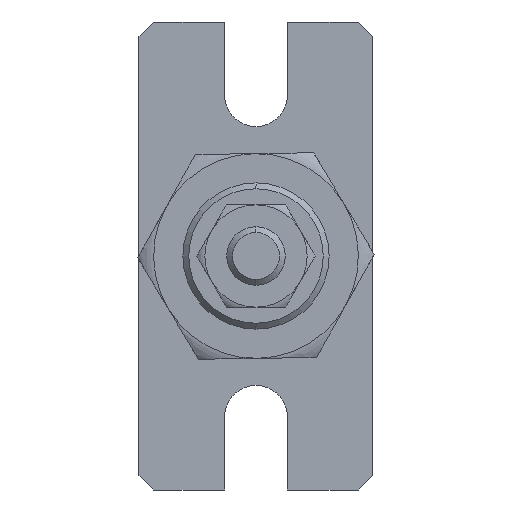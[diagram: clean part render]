
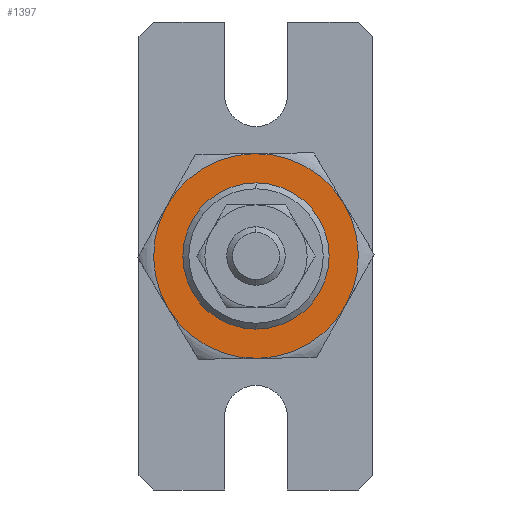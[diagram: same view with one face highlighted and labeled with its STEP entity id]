
A CAD part, left-side view. The second image highlights one B-rep face of the part: STEP entity #1397.
In plain terms, the highlighted planar face has unit normal (-1, 0, 0).
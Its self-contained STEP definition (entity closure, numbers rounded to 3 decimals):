
#20 = ORIENTED_EDGE ( 'NONE', *, *, #1524, .T. ) ;
#21 = CARTESIAN_POINT ( 'NONE',  ( -1.5, 0., 7. ) ) ;
#54 = EDGE_LOOP ( 'NONE', ( #3613, #566, #715, #1969, #1781, #1987 ) ) ;
#55 = DIRECTION ( 'NONE',  ( 0., 0., -1. ) ) ;
#96 = CARTESIAN_POINT ( 'NONE',  ( -1.5, 0., 0. ) ) ;
#123 = DIRECTION ( 'NONE',  ( 0., 0., -1. ) ) ;
#158 = VERTEX_POINT ( 'NONE', #2516 ) ;
#196 = AXIS2_PLACEMENT_3D ( 'NONE', #1582, #2092, #3200 ) ;
#286 = EDGE_CURVE ( 'NONE', #3566, #158, #1418, .T. ) ;
#308 = VERTEX_POINT ( 'NONE', #3588 ) ;
#383 = EDGE_LOOP ( 'NONE', ( #553, #20 ) ) ;
#545 = CARTESIAN_POINT ( 'NONE',  ( -1.5, -6.062, -3.5 ) ) ;
#553 = ORIENTED_EDGE ( 'NONE', *, *, #1214, .T. ) ;
#566 = ORIENTED_EDGE ( 'NONE', *, *, #2170, .F. ) ;
#623 = VERTEX_POINT ( 'NONE', #545 ) ;
#658 = CARTESIAN_POINT ( 'NONE',  ( -1.5, 0., -7. ) ) ;
#690 = AXIS2_PLACEMENT_3D ( 'NONE', #96, #1532, #695 ) ;
#695 = DIRECTION ( 'NONE',  ( 0., 0., -1. ) ) ;
#715 = ORIENTED_EDGE ( 'NONE', *, *, #2889, .F. ) ;
#800 = CIRCLE ( 'NONE', #1092, 7. ) ;
#855 = DIRECTION ( 'NONE',  ( 1., 0., 0. ) ) ;
#957 = CARTESIAN_POINT ( 'NONE',  ( -1.5, 0., 0. ) ) ;
#963 = AXIS2_PLACEMENT_3D ( 'NONE', #2005, #2461, #2514 ) ;
#1092 = AXIS2_PLACEMENT_3D ( 'NONE', #2998, #1331, #123 ) ;
#1197 = DIRECTION ( 'NONE',  ( -1., 0., 0. ) ) ;
#1214 = EDGE_CURVE ( 'NONE', #2096, #3019, #1948, .T. ) ;
#1222 = DIRECTION ( 'NONE',  ( 0., 0., -1. ) ) ;
#1287 = EDGE_CURVE ( 'NONE', #1720, #3045, #2267, .T. ) ;
#1331 = DIRECTION ( 'NONE',  ( 1., 0., 0. ) ) ;
#1397 = ADVANCED_FACE ( 'NONE', ( #1737, #2380 ), #1985, .F. ) ;
#1418 = CIRCLE ( 'NONE', #2952, 7. ) ;
#1524 = EDGE_CURVE ( 'NONE', #3019, #2096, #2214, .T. ) ;
#1532 = DIRECTION ( 'NONE',  ( 1., 0., 0. ) ) ;
#1582 = CARTESIAN_POINT ( 'NONE',  ( -1.5, 0., 0. ) ) ;
#1720 = VERTEX_POINT ( 'NONE', #658 ) ;
#1731 = CARTESIAN_POINT ( 'NONE',  ( -1.5, 0., -4.5 ) ) ;
#1737 = FACE_BOUND ( 'NONE', #383, .T. ) ;
#1781 = ORIENTED_EDGE ( 'NONE', *, *, #3162, .T. ) ;
#1818 = CARTESIAN_POINT ( 'NONE',  ( -1.5, 0., 0. ) ) ;
#1948 = CIRCLE ( 'NONE', #690, 4.5 ) ;
#1969 = ORIENTED_EDGE ( 'NONE', *, *, #286, .F. ) ;
#1985 = PLANE ( 'NONE',  #2346 ) ;
#1987 = ORIENTED_EDGE ( 'NONE', *, *, #3303, .F. ) ;
#2005 = CARTESIAN_POINT ( 'NONE',  ( -1.5, 0., 0. ) ) ;
#2042 = DIRECTION ( 'NONE',  ( 0., 0., 1. ) ) ;
#2073 = CARTESIAN_POINT ( 'NONE',  ( -1.5, 6.062, -3.5 ) ) ;
#2092 = DIRECTION ( 'NONE',  ( 1., 0., 0. ) ) ;
#2096 = VERTEX_POINT ( 'NONE', #1731 ) ;
#2138 = CIRCLE ( 'NONE', #3216, 7. ) ;
#2170 = EDGE_CURVE ( 'NONE', #623, #1720, #2138, .T. ) ;
#2214 = CIRCLE ( 'NONE', #963, 4.5 ) ;
#2267 = CIRCLE ( 'NONE', #196, 7. ) ;
#2320 = CARTESIAN_POINT ( 'NONE',  ( -1.5, 0., 0. ) ) ;
#2346 = AXIS2_PLACEMENT_3D ( 'NONE', #2320, #3283, #55 ) ;
#2380 = FACE_OUTER_BOUND ( 'NONE', #54, .T. ) ;
#2461 = DIRECTION ( 'NONE',  ( 1., 0., 0. ) ) ;
#2507 = AXIS2_PLACEMENT_3D ( 'NONE', #2570, #855, #3009 ) ;
#2514 = DIRECTION ( 'NONE',  ( 0., 0., -1. ) ) ;
#2516 = CARTESIAN_POINT ( 'NONE',  ( -1.5, -6.062, 3.5 ) ) ;
#2570 = CARTESIAN_POINT ( 'NONE',  ( -1.5, 0., 0. ) ) ;
#2621 = CARTESIAN_POINT ( 'NONE',  ( -1.5, 0., 0. ) ) ;
#2786 = CIRCLE ( 'NONE', #3349, 7. ) ;
#2889 = EDGE_CURVE ( 'NONE', #158, #623, #800, .T. ) ;
#2952 = AXIS2_PLACEMENT_3D ( 'NONE', #1818, #3369, #1222 ) ;
#2998 = CARTESIAN_POINT ( 'NONE',  ( -1.5, 0., 0. ) ) ;
#3009 = DIRECTION ( 'NONE',  ( 0., 0., -1. ) ) ;
#3019 = VERTEX_POINT ( 'NONE', #3713 ) ;
#3045 = VERTEX_POINT ( 'NONE', #2073 ) ;
#3063 = DIRECTION ( 'NONE',  ( 1., 0., 0. ) ) ;
#3162 = EDGE_CURVE ( 'NONE', #3566, #308, #2786, .T. ) ;
#3177 = DIRECTION ( 'NONE',  ( 0., 0., -1. ) ) ;
#3180 = CIRCLE ( 'NONE', #2507, 7. ) ;
#3200 = DIRECTION ( 'NONE',  ( 0., 0., -1. ) ) ;
#3216 = AXIS2_PLACEMENT_3D ( 'NONE', #2621, #3063, #3177 ) ;
#3283 = DIRECTION ( 'NONE',  ( 1., 0., 0. ) ) ;
#3303 = EDGE_CURVE ( 'NONE', #3045, #308, #3180, .T. ) ;
#3349 = AXIS2_PLACEMENT_3D ( 'NONE', #957, #1197, #2042 ) ;
#3369 = DIRECTION ( 'NONE',  ( 1., 0., 0. ) ) ;
#3566 = VERTEX_POINT ( 'NONE', #21 ) ;
#3588 = CARTESIAN_POINT ( 'NONE',  ( -1.5, 6.062, 3.5 ) ) ;
#3613 = ORIENTED_EDGE ( 'NONE', *, *, #1287, .F. ) ;
#3713 = CARTESIAN_POINT ( 'NONE',  ( -1.5, 0., 4.5 ) ) ;
